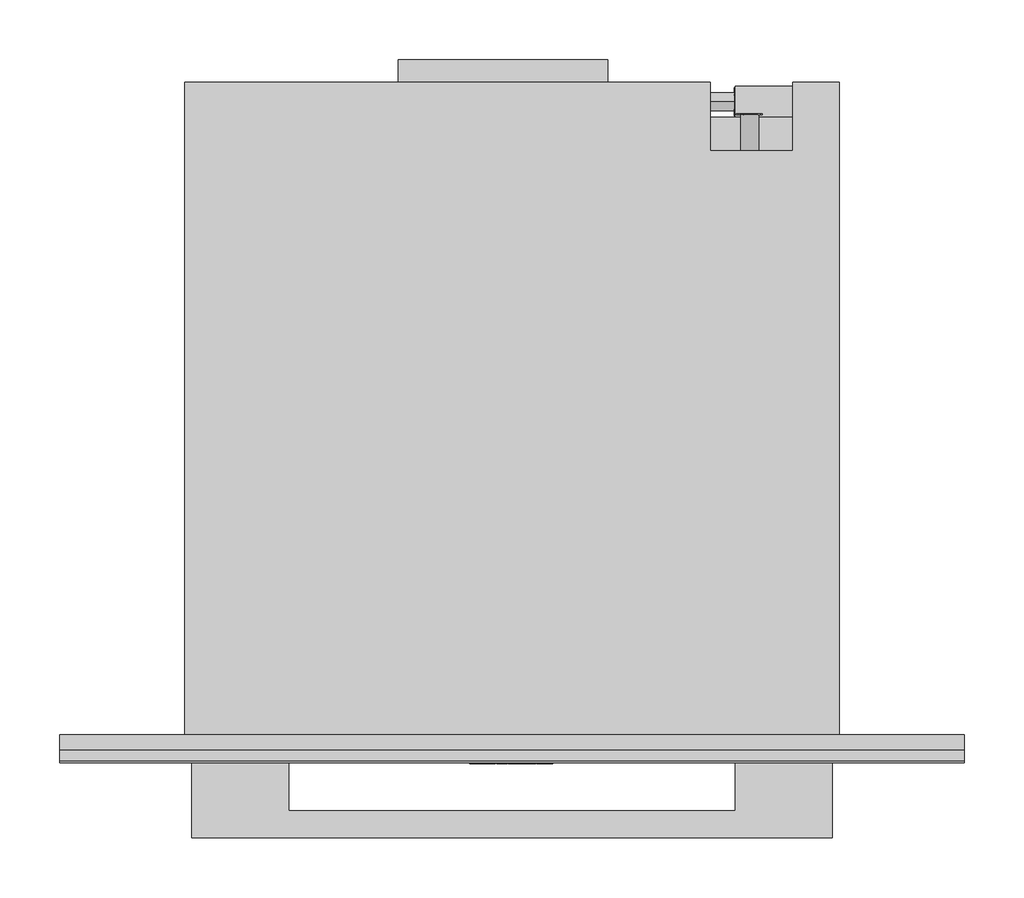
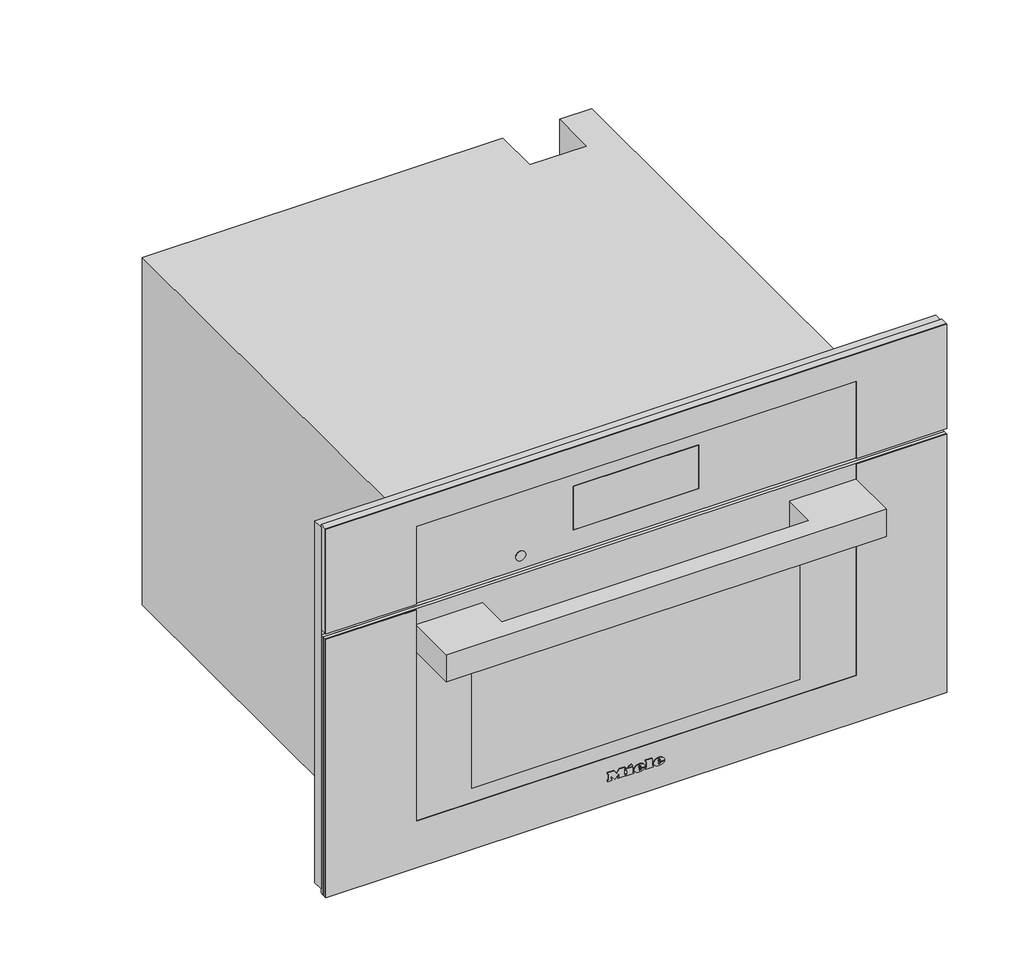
# Not in any storey: 1 proxy.
"""IFC4 building model written with IfcOpenShell, lengths in millimetres."""

from ifc_helpers import new_model, si_unit, origin, place, context, project, spatial, transform, mapped, element, save
from components import specialty_equipment_04b4d9b1

model = new_model("IFC4")

# Units and contexts
model_context = context("Model", 3, world=origin())
ifc_project = project(units=[si_unit("LENGTHUNIT", "METRE", prefix="MILLI")], contexts=[model_context])

# Site, building
site = spatial("IfcSite", under=ifc_project)
building = spatial("IfcBuilding", under=site)

# Proxy
placement = place(None, origin())
specialty_equipment_shape = specialty_equipment_04b4d9b1(model_context)
element("IfcBuildingElementProxy", 1, Name="11875760_USA_DGC7775_EDST-CLST : 23777542_USA_11875760_DGC7775_EDST-CLST", ObjectType="11875760_USA_DGC7775_EDST-CLST : 23777542_USA_11875760_DGC7775_EDST-CLST", at=placement, inside=building, context=model_context, shape_type="MappedRepresentation", body=[
    mapped(specialty_equipment_shape, transform((0.0, 0.0, 0.0), x_axis=(1.0, 0.0, 0.0), y_axis=(0.0, 1.0, 0.0), z_axis=(0.0, 0.0, 1.0))),
])

save(model, "model.ifc")
